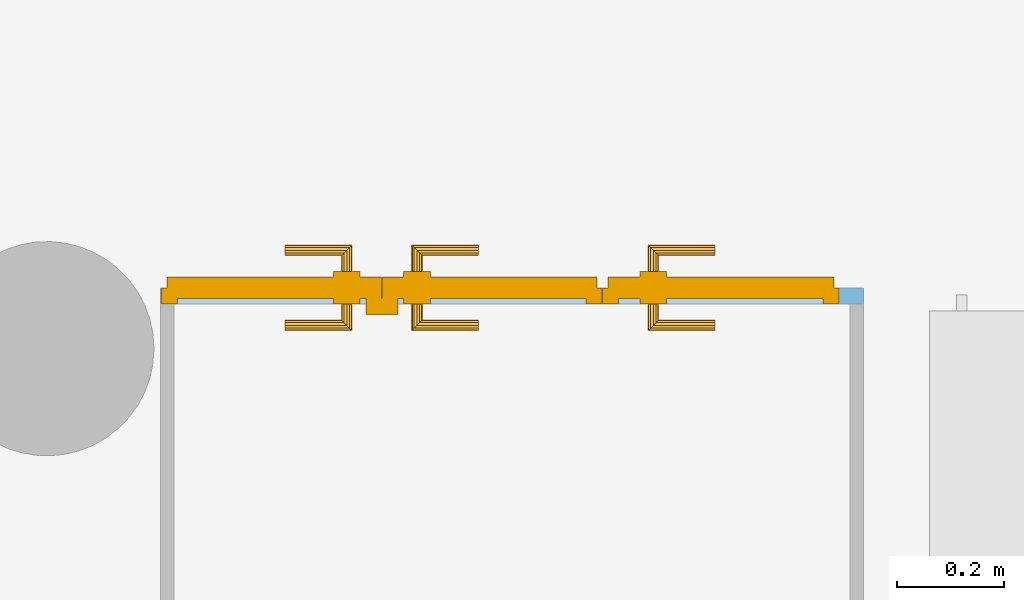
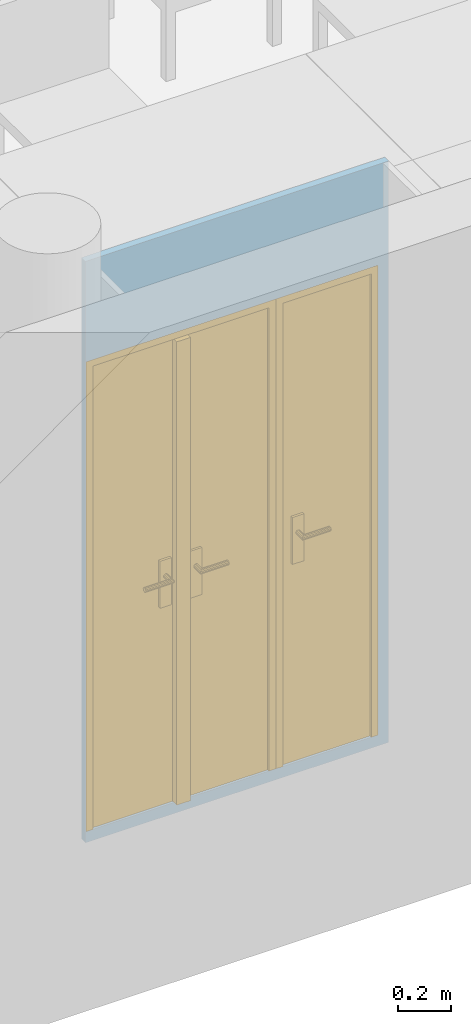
"""IFC4 building model written with IfcOpenShell, lengths in metres."""

from ifc_helpers import new_model, entity, si_unit, converted_unit, derived_unit, frame, frame_2d, origin, origin_with_axes, place, context, subcontext, project, spatial, polyline, rectangle, outline, extrude, faceted_brep, source, transform, mapped, material, layer, layer_set, layer_usage, element, fill, save


model = new_model("IFC4")

# Units and contexts
model_context = context("Model", 3, precision=1e-05, world=origin())
body_context = subcontext(model_context, "Body", "Model", "MODEL_VIEW")
ifc_project = project(units=[si_unit("LENGTHUNIT", "METRE"), si_unit("AREAUNIT", "SQUARE_METRE"), si_unit("VOLUMEUNIT", "CUBIC_METRE"), si_unit("MASSUNIT", "GRAM", prefix="KILO"), converted_unit("PLANEANGLEUNIT", "DEGREE", entity("IfcPlaneAngleMeasure", 0.0174532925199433), si_unit("PLANEANGLEUNIT", "RADIAN"), dimensions=[0, 0, 0, 0, 0, 0, 0]), derived_unit("THERMALTRANSMITTANCEUNIT", [(si_unit("POWERUNIT", "WATT"), 1), (si_unit("THERMODYNAMICTEMPERATUREUNIT", "KELVIN"), -1), (si_unit("LENGTHUNIT", "METRE"), -2)]), derived_unit("VOLUMETRICFLOWRATEUNIT", [(si_unit("LENGTHUNIT", "METRE"), 3), (converted_unit("TIMEUNIT", "hour", entity("IfcTimeMeasure", 3600.0), si_unit("TIMEUNIT", "SECOND"), dimensions=[0, 0, 1, 0, 0, 0, 0]), -1), (si_unit("LENGTHUNIT", "METRE"), -1)])], contexts=[model_context])

# Building, storeys
building_placement = place(None, origin())
building = spatial("IfcBuilding", under=ifc_project, at=building_placement, Name="HABITATGE PLURIFAMILIAR", CompositionType="ELEMENT")
storey_1_placement = place(building_placement, frame((0.0, 0.0, 15.28)))
storey_1 = spatial("IfcBuildingStorey", under=building, at=storey_1_placement, Name="PLANTA QUARTA", CompositionType="ELEMENT", Elevation=15.28)
storey_2_placement = place(storey_1_placement, frame((0.0, 0.0, 12.27)))
storey_2 = spatial("IfcBuildingStorey", under=storey_1, at=storey_2_placement, Name="NOU", CompositionType="PARTIAL")

# Wall, openings, doors
ifc_material = material()
ifc_layer = layer(ifc_material, 0.03)
ifc_layer_set = layer_set([ifc_layer])
ifc_layer_usage = layer_usage(ifc_layer_set, "AXIS2", "POSITIVE", 0.0)
wall_placement = place(storey_2_placement, frame((407.361610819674, 13.7631365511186, -12.32), z_axis=(0.0, 0.0, 1.0), x_axis=(-1.0, 0.0, 0.0)))
wall = element("IfcWall", 1, at=wall_placement, inside=storey_2, material=ifc_layer_usage, Name="Evans PA", context=body_context, shape_type="SweptSolid", body=[
    extrude(rectangle(XDim=1.31229787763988, YDim=0.03, at=frame_2d((0.656148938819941, 0.015), x_axis=(1.0, 0.0))), origin_with_axes(), (0.0, 0.0, 1.0), 2.66),
])
opening_1_placement = place(wall_placement, frame((0.0452878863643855, 0.0, 0.05), z_axis=(0.0, 1.0, 0.0), x_axis=(0.0, 0.0, 1.0)))
opening_1 = element("IfcOpeningElement", 2, at=opening_1_placement, cuts=wall, Name="Vano de puerta PA", ObjectType="Opening", context=body_context, shape_type="SweptSolid", body=[
    extrude(outline(polyline([(2.15, 0.441930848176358), (2.15, 0.0), (0.0, 0.0), (0.0, 0.441930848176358), (2.15, 0.441930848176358)])), origin_with_axes(), (0.0, 0.0, 1.0), 0.03),
])
opening_2_placement = place(wall_placement, frame((0.487834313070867, 0.0, 0.05), z_axis=(0.0, 1.0, 0.0), x_axis=(0.0, 0.0, 1.0)))
opening_2 = element("IfcOpeningElement", 3, at=opening_2_placement, cuts=wall, Name="Vano de puerta PA", ObjectType="Opening", context=body_context, shape_type="SweptSolid", body=[
    extrude(outline(polyline([(2.15, 0.822674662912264), (2.15, 0.0), (0.0, 0.0), (0.0, 0.822674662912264), (2.15, 0.822674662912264)])), origin_with_axes(), (0.0, 0.0, 1.0), 0.03),
])
shared_shape_1 = source(origin_with_axes(), body_context, "Body", "Brep", [
    faceted_brep([(0.0, 0.03, 2.15), (0.0, 0.03, 0.0), (0.03, 0.03, 0.0), (0.03, 0.03, 2.15), (0.0, 0.0, 0.0), (0.0, 0.0, 2.15), (0.03, 0.0, 2.15), (0.03, 0.0, 0.0)], [[[0, 1, 2, 3]], [[4, 5, 6, 7]], [[1, 0, 5, 4]], [[2, 1, 4, 7]], [[3, 2, 7, 6]], [[0, 3, 6, 5]]], orient=[[False], [False], [False], [False], [False], [False]]),
    faceted_brep([(0.411930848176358, 0.03, 2.15), (0.411930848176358, 0.03, 0.0), (0.441930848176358, 0.03, 0.0), (0.441930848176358, 0.03, 2.15), (0.411930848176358, 0.0, 0.0), (0.411930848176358, 0.0, 2.15), (0.441930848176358, 0.0, 2.15), (0.441930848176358, 0.0, 0.0)], [[[0, 1, 2, 3]], [[4, 5, 6, 7]], [[1, 0, 5, 4]], [[2, 1, 4, 7]], [[3, 2, 7, 6]], [[0, 3, 6, 5]]], orient=[[False], [False], [False], [False], [False], [False]]),
    faceted_brep([(0.03, 0.03, 2.15), (0.03, 0.03, 2.12), (0.411930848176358, 0.03, 2.12), (0.411930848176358, 0.03, 2.15), (0.03, 0.0, 2.12), (0.03, 0.0, 2.15), (0.411930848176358, 0.0, 2.15), (0.411930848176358, 0.0, 2.12)], [[[0, 1, 2, 3]], [[4, 5, 6, 7]], [[1, 0, 5, 4]], [[2, 1, 4, 7]], [[3, 2, 7, 6]], [[0, 3, 6, 5]]], orient=[[False], [False], [False], [False], [False], [False]]),
    faceted_brep([(0.01, 0.05, 2.14), (0.01, 0.05, 0.0), (0.431930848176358, 0.05, 0.0), (0.431930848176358, 0.05, 2.14), (0.01, 0.01, 0.0), (0.01, 0.01, 2.14), (0.431930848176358, 0.01, 2.14), (0.431930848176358, 0.01, 0.0)], [[[0, 1, 2, 3]], [[4, 5, 6, 7]], [[1, 0, 5, 4]], [[2, 1, 4, 7]], [[3, 2, 7, 6]], [[0, 3, 6, 5]]], orient=[[False], [False], [False], [False], [False], [False]]),
    faceted_brep([(0.0700000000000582, 0.01, 1.125), (0.0700000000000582, 0.01, 0.91), (0.120000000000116, 0.01, 0.91), (0.120000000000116, 0.01, 1.125), (0.0700000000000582, 0.0, 0.91), (0.0700000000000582, 0.0, 1.125), (0.120000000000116, 0.0, 1.125), (0.120000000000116, 0.0, 0.91)], [[[0, 1, 2, 3]], [[4, 5, 6, 7]], [[1, 0, 5, 4]], [[2, 1, 4, 7]], [[3, 2, 7, 6]], [[0, 3, 6, 5]]], orient=[[False], [False], [False], [False], [False], [False]]),
    faceted_brep([(0.0950000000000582, 0.0, 1.06), (0.0900000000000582, 0.0, 1.05866025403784), (0.0863397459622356, 0.0, 1.055), (0.0850000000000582, 0.0, 1.05), (0.0863397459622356, 0.0, 1.045), (0.0900000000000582, 0.0, 1.04133974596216), (0.0950000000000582, 0.0, 1.04), (0.100000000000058, 0.0, 1.04133974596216), (0.103660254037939, 0.0, 1.045), (0.105000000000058, 0.0, 1.05), (0.103660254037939, 0.0, 1.055), (0.100000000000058, 0.0, 1.05866025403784), (0.0950000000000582, -0.04, 1.06), (0.0900000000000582, -0.045, 1.05866025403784), (0.0863397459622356, -0.0486602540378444, 1.055), (0.0850000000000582, -0.05, 1.05), (0.0863397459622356, -0.0486602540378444, 1.045), (0.0900000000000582, -0.045, 1.04133974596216), (0.0950000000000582, -0.04, 1.04), (0.100000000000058, -0.035, 1.04133974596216), (0.103660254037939, -0.0313397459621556, 1.045), (0.105000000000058, -0.03, 1.05), (0.103660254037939, -0.0313397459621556, 1.055), (0.100000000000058, -0.035, 1.05866025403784), (0.210000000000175, -0.04, 1.06), (0.210000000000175, -0.035, 1.05866025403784), (0.210000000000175, -0.0313397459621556, 1.055), (0.210000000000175, -0.03, 1.05), (0.210000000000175, -0.0313397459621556, 1.045), (0.210000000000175, -0.035, 1.04133974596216), (0.210000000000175, -0.04, 1.04), (0.210000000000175, -0.045, 1.04133974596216), (0.210000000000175, -0.0486602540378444, 1.045), (0.210000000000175, -0.05, 1.05), (0.210000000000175, -0.0486602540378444, 1.055), (0.210000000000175, -0.045, 1.05866025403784)], [[[0, 1, 2, 3, 4, 5, 6, 7, 8, 9, 10, 11]], [[0, 12, 13, 1]], [[1, 13, 14, 2]], [[2, 14, 15, 3]], [[3, 15, 16, 4]], [[4, 16, 17, 5]], [[5, 17, 18, 6]], [[6, 18, 19, 7]], [[7, 19, 20, 8]], [[8, 20, 21, 9]], [[9, 21, 22, 10]], [[10, 22, 23, 11]], [[11, 23, 12, 0]], [[24, 25, 26, 27, 28, 29, 30, 31, 32, 33, 34, 35]], [[12, 24, 35, 13]], [[13, 35, 34, 14]], [[14, 34, 33, 15]], [[15, 33, 32, 16]], [[16, 32, 31, 17]], [[17, 31, 30, 18]], [[18, 30, 29, 19]], [[19, 29, 28, 20]], [[20, 28, 27, 21]], [[21, 27, 26, 22]], [[22, 26, 25, 23]], [[23, 25, 24, 12]]], orient=[[False], [False], [False], [False], [False], [False], [False], [False], [False], [False], [False], [False], [False], [False], [False], [False], [False], [False], [False], [False], [False], [False], [False], [False], [False], [False]]),
    faceted_brep([(0.0700000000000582, 0.05, 1.125), (0.120000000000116, 0.05, 1.125), (0.120000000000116, 0.05, 0.91), (0.0700000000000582, 0.05, 0.91), (0.0700000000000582, 0.06, 0.91), (0.120000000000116, 0.06, 0.91), (0.120000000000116, 0.06, 1.125), (0.0700000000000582, 0.06, 1.125)], [[[0, 1, 2, 3]], [[4, 5, 6, 7]], [[3, 4, 7, 0]], [[2, 5, 4, 3]], [[1, 6, 5, 2]], [[0, 7, 6, 1]]], orient=[[False], [False], [False], [False], [False], [False]]),
    faceted_brep([(0.0950000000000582, 0.06, 1.06), (0.100000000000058, 0.06, 1.05866025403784), (0.103660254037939, 0.06, 1.055), (0.105000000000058, 0.06, 1.05), (0.103660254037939, 0.06, 1.045), (0.100000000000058, 0.06, 1.04133974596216), (0.0950000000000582, 0.06, 1.04), (0.0900000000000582, 0.06, 1.04133974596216), (0.0863397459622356, 0.06, 1.045), (0.0850000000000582, 0.06, 1.05), (0.0863397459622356, 0.06, 1.055), (0.0900000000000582, 0.06, 1.05866025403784), (0.0900000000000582, 0.105, 1.05866025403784), (0.0950000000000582, 0.1, 1.06), (0.0863397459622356, 0.108660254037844, 1.055), (0.0850000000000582, 0.11, 1.05), (0.0863397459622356, 0.108660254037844, 1.045), (0.0900000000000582, 0.105, 1.04133974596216), (0.0950000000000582, 0.1, 1.04), (0.100000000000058, 0.095, 1.04133974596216), (0.103660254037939, 0.0913397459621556, 1.045), (0.105000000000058, 0.09, 1.05), (0.103660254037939, 0.0913397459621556, 1.055), (0.100000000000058, 0.095, 1.05866025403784), (0.210000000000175, 0.1, 1.06), (0.210000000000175, 0.105, 1.05866025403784), (0.210000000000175, 0.108660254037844, 1.055), (0.210000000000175, 0.11, 1.05), (0.210000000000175, 0.108660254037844, 1.045), (0.210000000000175, 0.105, 1.04133974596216), (0.210000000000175, 0.1, 1.04), (0.210000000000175, 0.095, 1.04133974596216), (0.210000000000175, 0.0913397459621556, 1.045), (0.210000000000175, 0.09, 1.05), (0.210000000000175, 0.0913397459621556, 1.055), (0.210000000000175, 0.095, 1.05866025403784)], [[[0, 1, 2, 3, 4, 5, 6, 7, 8, 9, 10, 11]], [[0, 11, 12, 13]], [[11, 10, 14, 12]], [[10, 9, 15, 14]], [[9, 8, 16, 15]], [[8, 7, 17, 16]], [[7, 6, 18, 17]], [[6, 5, 19, 18]], [[5, 4, 20, 19]], [[4, 3, 21, 20]], [[3, 2, 22, 21]], [[2, 1, 23, 22]], [[1, 0, 13, 23]], [[24, 25, 26, 27, 28, 29, 30, 31, 32, 33, 34, 35]], [[13, 12, 25, 24]], [[12, 14, 26, 25]], [[14, 15, 27, 26]], [[15, 16, 28, 27]], [[16, 17, 29, 28]], [[17, 18, 30, 29]], [[18, 19, 31, 30]], [[19, 20, 32, 31]], [[20, 21, 33, 32]], [[21, 22, 34, 33]], [[22, 23, 35, 34]], [[23, 13, 24, 35]]], orient=[[False], [False], [False], [False], [False], [False], [False], [False], [False], [False], [False], [False], [False], [False], [False], [False], [False], [False], [False], [False], [False], [False], [False], [False], [False], [False]]),
])
door_1_placement = place(opening_1_placement, frame((0.0, 0.441930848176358, 0.03), z_axis=(1.0, 0.0, 0.0), x_axis=(0.0, -1.0, 0.0)))
door_1 = element("IfcDoor", 4, at=door_1_placement, inside=storey_2, Name="Porta P4", OperationType="USERDEFINED", OverallHeight=2.15, OverallWidth=0.44193, PredefinedType="DOOR", context=body_context, shape_type="MappedRepresentation", body=[
    mapped(shared_shape_1, transform((0.0, 0.0, 0.0), x_axis=(1.0, 0.0, 0.0), y_axis=(0.0, 1.0, 0.0), z_axis=(0.0, 0.0, 1.0), scale=1.0)),
])
fill(opening_1, door_1)
shared_shape_2 = source(origin_with_axes(), body_context, "Body", "Brep", [
    faceted_brep([(0.822674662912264, 0.03, 2.15), (0.792674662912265, 0.03, 2.15), (0.792674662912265, 0.03, 0.0), (0.822674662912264, 0.03, 0.0), (0.822674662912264, 0.0, 0.0), (0.792674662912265, 0.0, 0.0), (0.792674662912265, 0.0, 2.15), (0.822674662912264, 0.0, 2.15)], [[[0, 1, 2, 3]], [[4, 5, 6, 7]], [[3, 4, 7, 0]], [[2, 5, 4, 3]], [[1, 6, 5, 2]], [[0, 7, 6, 1]]], orient=[[False], [False], [False], [False], [False], [False]]),
    faceted_brep([(0.03, 0.03, 2.15), (0.0, 0.03, 2.15), (0.0, 0.03, 0.0), (0.03, 0.03, 0.0), (0.03, 0.0, 0.0), (0.0, 0.0, 0.0), (0.0, 0.0, 2.15), (0.03, 0.0, 2.15)], [[[0, 1, 2, 3]], [[4, 5, 6, 7]], [[3, 4, 7, 0]], [[2, 5, 4, 3]], [[1, 6, 5, 2]], [[0, 7, 6, 1]]], orient=[[False], [False], [False], [False], [False], [False]]),
    faceted_brep([(0.792674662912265, 0.03, 2.15), (0.03, 0.03, 2.15), (0.03, 0.03, 2.12), (0.792674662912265, 0.03, 2.12), (0.792674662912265, 0.0, 2.12), (0.03, 0.0, 2.12), (0.03, 0.0, 2.15), (0.792674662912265, 0.0, 2.15)], [[[0, 1, 2, 3]], [[4, 5, 6, 7]], [[3, 4, 7, 0]], [[2, 5, 4, 3]], [[1, 6, 5, 2]], [[0, 7, 6, 1]]], orient=[[False], [False], [False], [False], [False], [False]]),
    faceted_brep([(0.812674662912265, 0.05, 2.14), (0.411837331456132, 0.05, 2.14), (0.411837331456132, 0.05, 0.0), (0.812674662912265, 0.05, 0.0), (0.812674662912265, 0.01, 0.0), (0.411837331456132, 0.01, 0.0), (0.411837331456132, 0.01, 2.14), (0.812674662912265, 0.01, 2.14)], [[[0, 1, 2, 3]], [[4, 5, 6, 7]], [[3, 4, 7, 0]], [[2, 5, 4, 3]], [[1, 6, 5, 2]], [[0, 7, 6, 1]]], orient=[[False], [False], [False], [False], [False], [False]]),
    faceted_brep([(0.441837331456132, 0.01, 2.12), (0.381837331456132, 0.01, 2.12), (0.381837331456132, 0.01, 0.0), (0.441837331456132, 0.01, 0.0), (0.441837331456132, -0.02, 0.0), (0.381837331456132, -0.02, 0.0), (0.381837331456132, -0.02, 2.12), (0.441837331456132, -0.02, 2.12)], [[[0, 1, 2, 3]], [[4, 5, 6, 7]], [[3, 4, 7, 0]], [[2, 5, 4, 3]], [[1, 6, 5, 2]], [[0, 7, 6, 1]]], orient=[[False], [False], [False], [False], [False], [False]]),
    faceted_brep([(0.50183733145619, 0.01, 1.125), (0.451837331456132, 0.01, 1.125), (0.451837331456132, 0.01, 0.91), (0.50183733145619, 0.01, 0.91), (0.50183733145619, 0.0, 0.91), (0.451837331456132, 0.0, 0.91), (0.451837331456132, 0.0, 1.125), (0.50183733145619, 0.0, 1.125)], [[[0, 1, 2, 3]], [[4, 5, 6, 7]], [[3, 4, 7, 0]], [[2, 5, 4, 3]], [[1, 6, 5, 2]], [[0, 7, 6, 1]]], orient=[[False], [False], [False], [False], [False], [False]]),
    faceted_brep([(0.476837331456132, 0.0, 1.06), (0.471837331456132, 0.0, 1.05866025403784), (0.46817707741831, 0.0, 1.055), (0.466837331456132, 0.0, 1.05), (0.46817707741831, 0.0, 1.045), (0.471837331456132, 0.0, 1.04133974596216), (0.476837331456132, 0.0, 1.04), (0.481837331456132, 0.0, 1.04133974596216), (0.485497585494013, 0.0, 1.045), (0.486837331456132, 0.0, 1.05), (0.485497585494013, 0.0, 1.055), (0.481837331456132, 0.0, 1.05866025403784), (0.476837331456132, -0.04, 1.06), (0.471837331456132, -0.045, 1.05866025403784), (0.46817707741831, -0.0486602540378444, 1.055), (0.466837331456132, -0.05, 1.05), (0.46817707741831, -0.0486602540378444, 1.045), (0.471837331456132, -0.045, 1.04133974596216), (0.476837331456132, -0.04, 1.04), (0.481837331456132, -0.035, 1.04133974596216), (0.485497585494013, -0.0313397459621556, 1.045), (0.486837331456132, -0.03, 1.05), (0.485497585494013, -0.0313397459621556, 1.055), (0.481837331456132, -0.035, 1.05866025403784), (0.59183733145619, -0.04, 1.06), (0.59183733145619, -0.035, 1.05866025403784), (0.59183733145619, -0.0313397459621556, 1.055), (0.59183733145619, -0.03, 1.05), (0.59183733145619, -0.0313397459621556, 1.045), (0.59183733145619, -0.035, 1.04133974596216), (0.59183733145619, -0.04, 1.04), (0.59183733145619, -0.045, 1.04133974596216), (0.59183733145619, -0.0486602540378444, 1.045), (0.59183733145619, -0.05, 1.05), (0.59183733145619, -0.0486602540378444, 1.055), (0.59183733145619, -0.045, 1.05866025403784)], [[[0, 1, 2, 3, 4, 5, 6, 7, 8, 9, 10, 11]], [[0, 12, 13, 1]], [[1, 13, 14, 2]], [[2, 14, 15, 3]], [[3, 15, 16, 4]], [[4, 16, 17, 5]], [[5, 17, 18, 6]], [[6, 18, 19, 7]], [[7, 19, 20, 8]], [[8, 20, 21, 9]], [[9, 21, 22, 10]], [[10, 22, 23, 11]], [[11, 23, 12, 0]], [[24, 25, 26, 27, 28, 29, 30, 31, 32, 33, 34, 35]], [[12, 24, 35, 13]], [[13, 35, 34, 14]], [[14, 34, 33, 15]], [[15, 33, 32, 16]], [[16, 32, 31, 17]], [[17, 31, 30, 18]], [[18, 30, 29, 19]], [[19, 29, 28, 20]], [[20, 28, 27, 21]], [[21, 27, 26, 22]], [[22, 26, 25, 23]], [[23, 25, 24, 12]]], orient=[[False], [False], [False], [False], [False], [False], [False], [False], [False], [False], [False], [False], [False], [False], [False], [False], [False], [False], [False], [False], [False], [False], [False], [False], [False], [False]]),
    faceted_brep([(0.50183733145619, 0.05, 1.125), (0.50183733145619, 0.05, 0.91), (0.451837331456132, 0.05, 0.91), (0.451837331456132, 0.05, 1.125), (0.50183733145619, 0.06, 0.91), (0.50183733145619, 0.06, 1.125), (0.451837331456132, 0.06, 1.125), (0.451837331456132, 0.06, 0.91)], [[[0, 1, 2, 3]], [[4, 5, 6, 7]], [[1, 0, 5, 4]], [[2, 1, 4, 7]], [[3, 2, 7, 6]], [[0, 3, 6, 5]]], orient=[[False], [False], [False], [False], [False], [False]]),
    faceted_brep([(0.476837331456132, 0.06, 1.06), (0.481837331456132, 0.06, 1.05866025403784), (0.485497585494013, 0.06, 1.055), (0.486837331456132, 0.06, 1.05), (0.485497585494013, 0.06, 1.045), (0.481837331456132, 0.06, 1.04133974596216), (0.476837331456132, 0.06, 1.04), (0.471837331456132, 0.06, 1.04133974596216), (0.46817707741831, 0.06, 1.045), (0.466837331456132, 0.06, 1.05), (0.46817707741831, 0.06, 1.055), (0.471837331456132, 0.06, 1.05866025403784), (0.471837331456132, 0.105, 1.05866025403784), (0.476837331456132, 0.1, 1.06), (0.46817707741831, 0.108660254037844, 1.055), (0.466837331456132, 0.11, 1.05), (0.46817707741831, 0.108660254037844, 1.045), (0.471837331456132, 0.105, 1.04133974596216), (0.476837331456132, 0.1, 1.04), (0.481837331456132, 0.095, 1.04133974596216), (0.485497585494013, 0.0913397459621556, 1.045), (0.486837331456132, 0.09, 1.05), (0.485497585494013, 0.0913397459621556, 1.055), (0.481837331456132, 0.095, 1.05866025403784), (0.59183733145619, 0.1, 1.06), (0.59183733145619, 0.105, 1.05866025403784), (0.59183733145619, 0.108660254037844, 1.055), (0.59183733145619, 0.11, 1.05), (0.59183733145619, 0.108660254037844, 1.045), (0.59183733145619, 0.105, 1.04133974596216), (0.59183733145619, 0.1, 1.04), (0.59183733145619, 0.095, 1.04133974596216), (0.59183733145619, 0.0913397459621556, 1.045), (0.59183733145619, 0.09, 1.05), (0.59183733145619, 0.0913397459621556, 1.055), (0.59183733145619, 0.095, 1.05866025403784)], [[[0, 1, 2, 3, 4, 5, 6, 7, 8, 9, 10, 11]], [[0, 11, 12, 13]], [[11, 10, 14, 12]], [[10, 9, 15, 14]], [[9, 8, 16, 15]], [[8, 7, 17, 16]], [[7, 6, 18, 17]], [[6, 5, 19, 18]], [[5, 4, 20, 19]], [[4, 3, 21, 20]], [[3, 2, 22, 21]], [[2, 1, 23, 22]], [[1, 0, 13, 23]], [[24, 25, 26, 27, 28, 29, 30, 31, 32, 33, 34, 35]], [[13, 12, 25, 24]], [[12, 14, 26, 25]], [[14, 15, 27, 26]], [[15, 16, 28, 27]], [[16, 17, 29, 28]], [[17, 18, 30, 29]], [[18, 19, 31, 30]], [[19, 20, 32, 31]], [[20, 21, 33, 32]], [[21, 22, 34, 33]], [[22, 23, 35, 34]], [[23, 13, 24, 35]]], orient=[[False], [False], [False], [False], [False], [False], [False], [False], [False], [False], [False], [False], [False], [False], [False], [False], [False], [False], [False], [False], [False], [False], [False], [False], [False], [False]]),
    faceted_brep([(0.410837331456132, 0.05, 2.14), (0.01, 0.05, 2.14), (0.01, 0.05, 0.0), (0.410837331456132, 0.05, 0.0), (0.410837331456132, 0.01, 0.0), (0.01, 0.01, 0.0), (0.01, 0.01, 2.14), (0.410837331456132, 0.01, 2.14)], [[[0, 1, 2, 3]], [[4, 5, 6, 7]], [[3, 4, 7, 0]], [[2, 5, 4, 3]], [[1, 6, 5, 2]], [[0, 7, 6, 1]]], orient=[[False], [False], [False], [False], [False], [False]]),
    faceted_brep([(0.370837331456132, 0.01, 1.125), (0.320837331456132, 0.01, 1.125), (0.320837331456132, 0.01, 0.91), (0.370837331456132, 0.01, 0.91), (0.370837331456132, 0.0, 0.91), (0.320837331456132, 0.0, 0.91), (0.320837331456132, 0.0, 1.125), (0.370837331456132, 0.0, 1.125)], [[[0, 1, 2, 3]], [[4, 5, 6, 7]], [[3, 4, 7, 0]], [[2, 5, 4, 3]], [[1, 6, 5, 2]], [[0, 7, 6, 1]]], orient=[[False], [False], [False], [False], [False], [False]]),
    faceted_brep([(0.345837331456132, 0.0, 1.06), (0.340837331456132, 0.0, 1.05866025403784), (0.337177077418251, 0.0, 1.055), (0.335837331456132, 0.0, 1.05), (0.337177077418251, 0.0, 1.045), (0.340837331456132, 0.0, 1.04133974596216), (0.345837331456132, 0.0, 1.04), (0.350837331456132, 0.0, 1.04133974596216), (0.354497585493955, 0.0, 1.045), (0.355837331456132, 0.0, 1.05), (0.354497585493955, 0.0, 1.055), (0.350837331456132, 0.0, 1.05866025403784), (0.350837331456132, -0.045, 1.05866025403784), (0.345837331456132, -0.04, 1.06), (0.354497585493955, -0.0486602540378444, 1.055), (0.355837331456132, -0.05, 1.05), (0.354497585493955, -0.0486602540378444, 1.045), (0.350837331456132, -0.045, 1.04133974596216), (0.345837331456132, -0.04, 1.04), (0.340837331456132, -0.035, 1.04133974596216), (0.337177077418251, -0.0313397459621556, 1.045), (0.335837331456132, -0.03, 1.05), (0.337177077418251, -0.0313397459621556, 1.055), (0.340837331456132, -0.035, 1.05866025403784), (0.230837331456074, -0.04, 1.06), (0.230837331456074, -0.045, 1.05866025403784), (0.230837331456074, -0.0486602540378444, 1.055), (0.230837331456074, -0.05, 1.05), (0.230837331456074, -0.0486602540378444, 1.045), (0.230837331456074, -0.045, 1.04133974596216), (0.230837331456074, -0.04, 1.04), (0.230837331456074, -0.035, 1.04133974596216), (0.230837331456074, -0.0313397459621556, 1.045), (0.230837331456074, -0.03, 1.05), (0.230837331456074, -0.0313397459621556, 1.055), (0.230837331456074, -0.035, 1.05866025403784)], [[[0, 1, 2, 3, 4, 5, 6, 7, 8, 9, 10, 11]], [[0, 11, 12, 13]], [[11, 10, 14, 12]], [[10, 9, 15, 14]], [[9, 8, 16, 15]], [[8, 7, 17, 16]], [[7, 6, 18, 17]], [[6, 5, 19, 18]], [[5, 4, 20, 19]], [[4, 3, 21, 20]], [[3, 2, 22, 21]], [[2, 1, 23, 22]], [[1, 0, 13, 23]], [[24, 25, 26, 27, 28, 29, 30, 31, 32, 33, 34, 35]], [[13, 12, 25, 24]], [[12, 14, 26, 25]], [[14, 15, 27, 26]], [[15, 16, 28, 27]], [[16, 17, 29, 28]], [[17, 18, 30, 29]], [[18, 19, 31, 30]], [[19, 20, 32, 31]], [[20, 21, 33, 32]], [[21, 22, 34, 33]], [[22, 23, 35, 34]], [[23, 13, 24, 35]]], orient=[[False], [False], [False], [False], [False], [False], [False], [False], [False], [False], [False], [False], [False], [False], [False], [False], [False], [False], [False], [False], [False], [False], [False], [False], [False], [False]]),
    faceted_brep([(0.370837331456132, 0.05, 1.125), (0.370837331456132, 0.05, 0.91), (0.320837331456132, 0.05, 0.91), (0.320837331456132, 0.05, 1.125), (0.370837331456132, 0.06, 0.91), (0.370837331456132, 0.06, 1.125), (0.320837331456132, 0.06, 1.125), (0.320837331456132, 0.06, 0.91)], [[[0, 1, 2, 3]], [[4, 5, 6, 7]], [[1, 0, 5, 4]], [[2, 1, 4, 7]], [[3, 2, 7, 6]], [[0, 3, 6, 5]]], orient=[[False], [False], [False], [False], [False], [False]]),
    faceted_brep([(0.345837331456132, 0.06, 1.06), (0.350837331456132, 0.06, 1.05866025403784), (0.354497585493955, 0.06, 1.055), (0.355837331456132, 0.06, 1.05), (0.354497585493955, 0.06, 1.045), (0.350837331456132, 0.06, 1.04133974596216), (0.345837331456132, 0.06, 1.04), (0.340837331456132, 0.06, 1.04133974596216), (0.337177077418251, 0.06, 1.045), (0.335837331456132, 0.06, 1.05), (0.337177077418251, 0.06, 1.055), (0.340837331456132, 0.06, 1.05866025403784), (0.345837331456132, 0.1, 1.06), (0.350837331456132, 0.105, 1.05866025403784), (0.354497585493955, 0.108660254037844, 1.055), (0.355837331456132, 0.11, 1.05), (0.354497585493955, 0.108660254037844, 1.045), (0.350837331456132, 0.105, 1.04133974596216), (0.345837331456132, 0.1, 1.04), (0.340837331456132, 0.095, 1.04133974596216), (0.337177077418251, 0.0913397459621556, 1.045), (0.335837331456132, 0.09, 1.05), (0.337177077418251, 0.0913397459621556, 1.055), (0.340837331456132, 0.095, 1.05866025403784), (0.230837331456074, 0.1, 1.06), (0.230837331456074, 0.095, 1.05866025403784), (0.230837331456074, 0.0913397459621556, 1.055), (0.230837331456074, 0.09, 1.05), (0.230837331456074, 0.0913397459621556, 1.045), (0.230837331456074, 0.095, 1.04133974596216), (0.230837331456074, 0.1, 1.04), (0.230837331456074, 0.105, 1.04133974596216), (0.230837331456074, 0.108660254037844, 1.045), (0.230837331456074, 0.11, 1.05), (0.230837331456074, 0.108660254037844, 1.055), (0.230837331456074, 0.105, 1.05866025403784)], [[[0, 1, 2, 3, 4, 5, 6, 7, 8, 9, 10, 11]], [[0, 12, 13, 1]], [[1, 13, 14, 2]], [[2, 14, 15, 3]], [[3, 15, 16, 4]], [[4, 16, 17, 5]], [[5, 17, 18, 6]], [[6, 18, 19, 7]], [[7, 19, 20, 8]], [[8, 20, 21, 9]], [[9, 21, 22, 10]], [[10, 22, 23, 11]], [[11, 23, 12, 0]], [[24, 25, 26, 27, 28, 29, 30, 31, 32, 33, 34, 35]], [[12, 24, 35, 13]], [[13, 35, 34, 14]], [[14, 34, 33, 15]], [[15, 33, 32, 16]], [[16, 32, 31, 17]], [[17, 31, 30, 18]], [[18, 30, 29, 19]], [[19, 29, 28, 20]], [[20, 28, 27, 21]], [[21, 27, 26, 22]], [[22, 26, 25, 23]], [[23, 25, 24, 12]]], orient=[[False], [False], [False], [False], [False], [False], [False], [False], [False], [False], [False], [False], [False], [False], [False], [False], [False], [False], [False], [False], [False], [False], [False], [False], [False], [False]]),
])
door_2_placement = place(opening_2_placement, frame((0.0, 0.822674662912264, 0.03), z_axis=(1.0, 0.0, 0.0), x_axis=(0.0, -1.0, 0.0)))
door_2 = element("IfcDoor", 5, at=door_2_placement, inside=storey_2, Name="Porta PA", OperationType="USERDEFINED", OverallHeight=2.15, OverallWidth=0.82267, PredefinedType="DOOR", context=body_context, shape_type="MappedRepresentation", body=[
    mapped(shared_shape_2, transform((0.0, 0.0, 0.0), x_axis=(1.0, 0.0, 0.0), y_axis=(0.0, 1.0, 0.0), z_axis=(0.0, 0.0, 1.0), scale=1.0)),
])
fill(opening_2, door_2)

save(model, "model.ifc")
